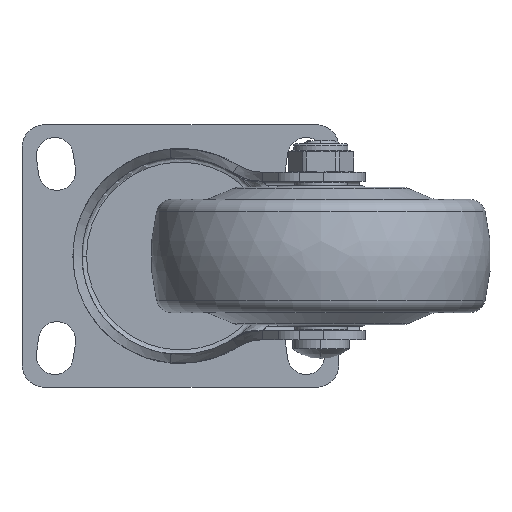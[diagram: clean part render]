
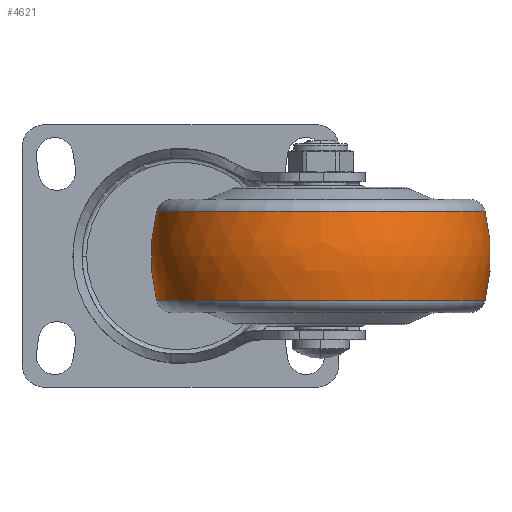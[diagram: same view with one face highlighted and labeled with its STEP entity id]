
A CAD part, front view. The second image highlights one B-rep face of the part: STEP entity #4621.
In plain terms, the highlighted free-form (B-spline) face has degree [3, 3] with [7, 4] control points.
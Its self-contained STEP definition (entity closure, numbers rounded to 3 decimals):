
#4159=CARTESIAN_POINT('',(0.,-2.5,0.));
#4160=DIRECTION('',(0.,0.,1.));
#4161=DIRECTION('',(0.247,0.969,0.));
#4162=AXIS2_PLACEMENT_3D('',#4159,#4160,#4161);
#4164=CARTESIAN_POINT('',(0.,2.5,0.));
#4165=DIRECTION('',(0.,0.,-1.));
#4166=DIRECTION('',(0.247,-0.969,0.));
#4167=AXIS2_PLACEMENT_3D('',#4164,#4165,#4166);
#4169=CARTESIAN_POINT('',(9.863,0.,0.));
#4170=DIRECTION('',(-1.,0.,0.));
#4171=DIRECTION('',(0.,1.,0.));
#4172=AXIS2_PLACEMENT_3D('',#4169,#4170,#4171);
#4184=CARTESIAN_POINT('',(-9.863,0.,0.));
#4185=DIRECTION('',(-1.,0.,0.));
#4186=DIRECTION('',(0.,1.,0.));
#4187=AXIS2_PLACEMENT_3D('',#4184,#4185,#4186);
#4464=CARTESIAN_POINT('',(9.863,36.265,0.));
#4465=CARTESIAN_POINT('',(-9.863,36.265,0.));
#4466=VERTEX_POINT('',#4464);
#4467=VERTEX_POINT('',#4465);
#4504=CARTESIAN_POINT('',(9.863,-36.265,0.));
#4505=CARTESIAN_POINT('',(-9.863,-36.265,0.));
#4506=VERTEX_POINT('',#4504);
#4507=VERTEX_POINT('',#4505);
#4584=CARTESIAN_POINT('',(-10.249,-36.093,
2.271));
#4585=CARTESIAN_POINT('',(-3.494,-37.88,
2.383));
#4586=CARTESIAN_POINT('',(3.494,-37.88,2.383));
#4587=CARTESIAN_POINT('',(10.249,-36.093,2.271));
#4588=CARTESIAN_POINT('',(-10.249,-37.491,
-19.941));
#4589=CARTESIAN_POINT('',(-3.494,-39.347,
-20.928));
#4590=CARTESIAN_POINT('',(3.494,-39.347,
-20.928));
#4591=CARTESIAN_POINT('',(10.249,-37.491,
-19.941));
#4592=CARTESIAN_POINT('',(-10.249,-22.256,
-36.165));
#4593=CARTESIAN_POINT('',(-3.494,-23.358,
-37.955));
#4594=CARTESIAN_POINT('',(3.494,-23.358,
-37.955));
#4595=CARTESIAN_POINT('',(10.249,-22.256,
-36.165));
#4596=CARTESIAN_POINT('',(-10.249,0.,-36.165));
#4597=CARTESIAN_POINT('',(-3.494,0.,-37.955));
#4598=CARTESIAN_POINT('',(3.494,0.,-37.955));
#4599=CARTESIAN_POINT('',(10.249,0.,-36.165));
#4600=CARTESIAN_POINT('',(-10.249,22.256,
-36.165));
#4601=CARTESIAN_POINT('',(-3.494,23.358,
-37.955));
#4602=CARTESIAN_POINT('',(3.494,23.358,-37.955));
#4603=CARTESIAN_POINT('',(10.249,22.256,-36.165));
#4604=CARTESIAN_POINT('',(-10.249,37.491,
-19.941));
#4605=CARTESIAN_POINT('',(-3.494,39.347,
-20.928));
#4606=CARTESIAN_POINT('',(3.494,39.347,-20.928));
#4607=CARTESIAN_POINT('',(10.249,37.491,-19.941));
#4608=CARTESIAN_POINT('',(-10.249,36.093,2.271));
#4609=CARTESIAN_POINT('',(-3.494,37.88,2.383));
#4610=CARTESIAN_POINT('',(3.494,37.88,2.383));
#4611=CARTESIAN_POINT('',(10.249,36.093,2.271));
#4612=(BOUNDED_SURFACE()B_SPLINE_SURFACE(3,3,((#4584,#4585,#4586,#4587),(#4588,
#4589,#4590,#4591),(#4592,#4593,#4594,#4595),(#4596,#4597,#4598,#4599),(#4600,
#4601,#4602,#4603),(#4604,#4605,#4606,#4607),(#4608,#4609,#4610,#4611)),
.UNSPECIFIED.,.F.,.F.,.F.)B_SPLINE_SURFACE_WITH_KNOTS((4,3,4),(4,4),(0.,1.,
2.),(0.,1.),.UNSPECIFIED.)GEOMETRIC_REPRESENTATION_ITEM()RATIONAL_B_SPLINE_SURFACE(((1.207,1.181,1.181,1.207),(
0.953,0.932,0.932,0.953),(
0.953,0.932,0.932,0.953),(
1.207,1.181,1.181,1.207),(
0.953,0.932,0.932,0.953),(
0.953,0.932,0.932,0.953),(
1.207,1.181,1.181,1.207)))REPRESENTATION_ITEM('')SURFACE());
#4613=ORIENTED_EDGE('',*,*,#4573,.T.);
#4615=ORIENTED_EDGE('',*,*,#4614,.T.);
#4616=ORIENTED_EDGE('',*,*,#4577,.F.);
#4618=ORIENTED_EDGE('',*,*,#4617,.F.);
#4619=EDGE_LOOP('',(#4613,#4615,#4616,#4618));
#4620=FACE_OUTER_BOUND('',#4619,.F.);
#4163=CIRCLE('',#4162,40.);
#4168=CIRCLE('',#4167,40.);
#4173=CIRCLE('',#4172,36.265);
#4188=CIRCLE('',#4187,36.265);
#4573=EDGE_CURVE('',#4466,#4467,#4163,.T.);
#4577=EDGE_CURVE('',#4506,#4507,#4168,.T.);
#4614=EDGE_CURVE('',#4467,#4507,#4188,.T.);
#4617=EDGE_CURVE('',#4466,#4506,#4173,.T.);
#4621=ADVANCED_FACE('',(#4620),#4612,.T.);
